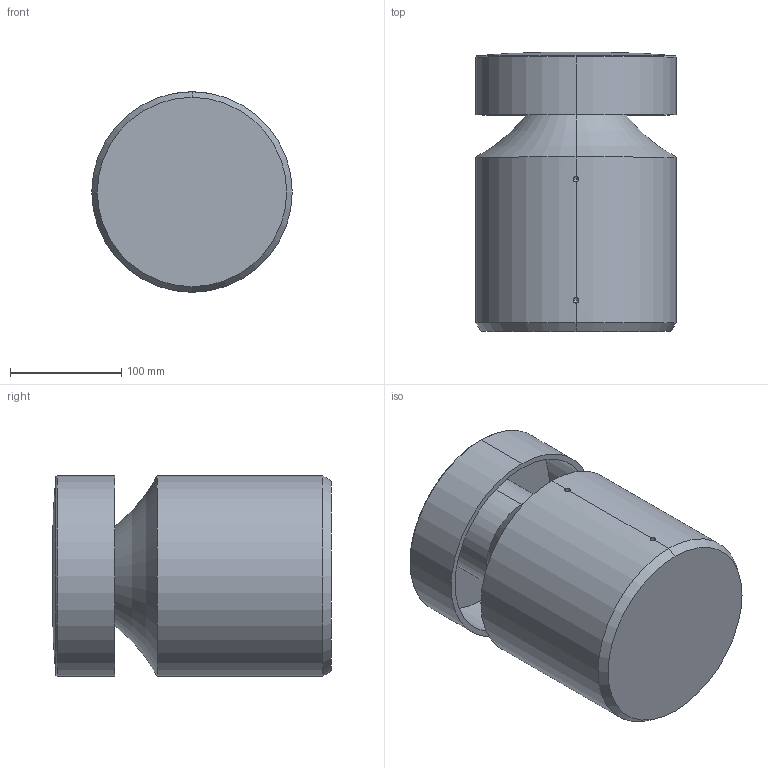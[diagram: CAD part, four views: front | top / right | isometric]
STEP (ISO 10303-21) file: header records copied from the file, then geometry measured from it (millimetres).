
FILE_DESCRIPTION (( 'STEP AP203' ), '1' );
FILE_NAME ('BOLLARD 250.STEP', '2023-04-17T10:48:08', ( '' ), ( '' ), 'SwSTEP 2.0', 'SolidWorks 2017', '' );
FILE_SCHEMA (( 'CONFIG_CONTROL_DESIGN' ));
Length unit declared in the file: millimetre
Products named in the file (1): BOLLARD 250
Bounding box: 180 x 250.48 x 180 mm (x, y, z)
Volume: 5058525 mm3; surface area: 251995.3 mm2
Topology: 1 solids, 1 shells, 35 faces, 90 edges, 49 vertices
Faces by surface type: cylinder 16, cone 12, torus 4, plane 3
Entity records: 1283 total; most frequent: CARTESIAN_POINT 421, DIRECTION 168, ORIENTED_EDGE 160, EDGE_CURVE 80, AXIS2_PLACEMENT_3D 68, VERTEX_POINT 49, EDGE_LOOP 37, ADVANCED_FACE 35
